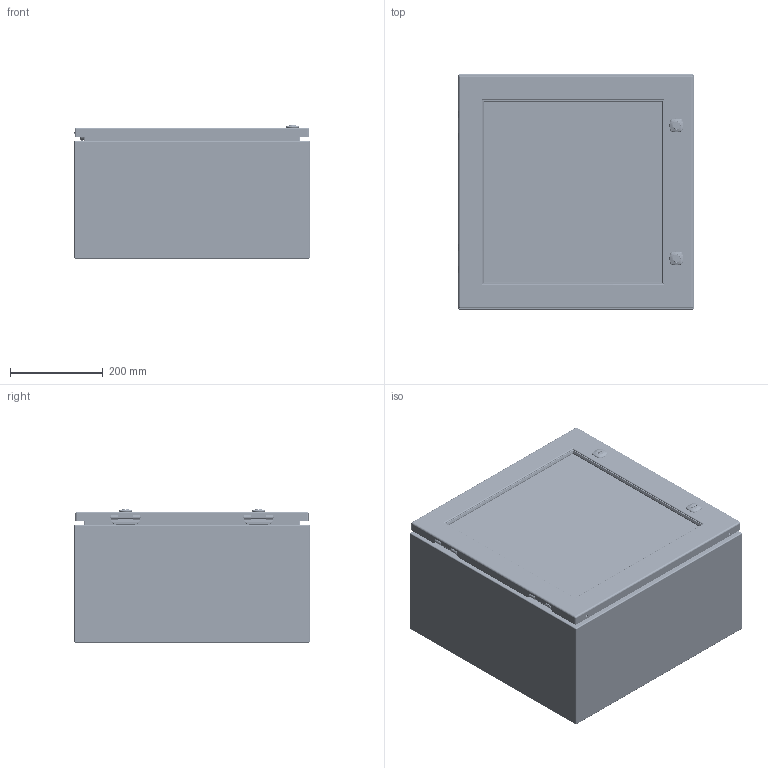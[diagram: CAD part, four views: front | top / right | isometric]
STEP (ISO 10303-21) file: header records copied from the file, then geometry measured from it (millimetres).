
FILE_DESCRIPTION(/* description */ ('5412ESW 20" x 20" x 10" Assembly'),/* implementation_level */ '2;1');
FILE_NAME(/* name */ '5412ESW202010.stp',/* time_stamp */ '2024-09-11T23:53:41-04:00',/* author */ ('BoxCad'),/* organization */ (''),/* preprocessor_version */ 'ST-DEVELOPER v20',/* originating_system */ 'Autodesk Inventor 2024',/* authorisation */ '');
FILE_SCHEMA (('AUTOMOTIVE_DESIGN { 1 0 10303 214 3 1 1 }'));
Products named in the file (58): 5412ESW202010; 5412ESW202010B; 5412ESW202010B-P; STK-Q-16005; STUD_M6 x 16mm; STK-S-00100; 5412ESW202010C; 5412ESW202010C-P; 5412ESW202010G; STK-K-09800-1; STK-K-09800-2; STK-Q-33014; STK-Q-90398; STK-Q-40095; STK-Q-63410; 5412ESW202010LX; 5412ESW202010LXG; 5412ESW202010_STK_G; STK-Q-16052; 5412ESW202010_STK-A-60703; STK-Q-60703-2; STK-Q-60703-1; STK-Q-60703-3; STK-Q-60703-4; STK-Q-60703-A; STK-Q-60703-B; STK-Q-60703-C; STK-Q-60701-1; STK-Q-60701-2; STK-Q-60701-3; STK-Q-60701-4; STK-Q-60701-17; STK-Q-60701-18; STK-Q-60701-19; STK-Q-60701-20; STK-Q-60701-A; STK-Q-60701-B; STK-Q-60701-C; STK-P-02400S; STK-K-12500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
Assembly tree (119 placements, depth 5):
  5412ESW202010
    5412ESW202010B
      5412ESW202010B-P
      STK-Q-16005  x4
      STK-P-02400S
      STUD_M6 x 16mm
      STK-S-00100
    5412ESW202010C
      5412ESW202010C-P
      5412ESW202010G
      STK-K-09800-1
        STK-Q-33014
        STK-Q-90398
        STK-Q-40095  x2
        STK-Q-63410  x2
      STK-K-09800-2
        STK-Q-33014
        STK-Q-90398
        STK-Q-40095  x2
        STK-Q-63410  x2
      5412ESW202010LX
      5412ESW202010LXG
      5412ESW202010_STK_G
      STK-Q-16052  x12
      5412ESW202010_STK-A-60703
        STK-Q-60703-2
          STK-Q-60703-A
          STK-Q-60703-B
          STK-Q-60703-C
        STK-Q-60703-1
          STK-Q-60703-A
          STK-Q-60703-B
          STK-Q-60703-C
        STK-Q-60703-3
          STK-Q-60703-A
          STK-Q-60703-B
          STK-Q-60703-C
        STK-Q-60703-4
          STK-Q-60703-A
          STK-Q-60703-B
          STK-Q-60703-C
      STK-Q-60701-1
        STK-Q-60701-A
        STK-Q-60701-B
        STK-Q-60701-C
      STK-Q-60701-2
        STK-Q-60701-A
        STK-Q-60701-B
        STK-Q-60701-C
      STK-Q-60701-3
        STK-Q-60701-A
        STK-Q-60701-B
        STK-Q-60701-C
      STK-Q-60701-4
        STK-Q-60701-A
        STK-Q-60701-B
        STK-Q-60701-C
      STK-Q-60701-17
        STK-Q-60701-A
        STK-Q-60701-B
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Bounding box: 508.07 x 508 x 287.27 mm (x, y, z)
Volume: 3438895.4 mm3; surface area: 3120364.2 mm2
Topology: 101 solids, 101 shells, 20407 faces, 54732 edges, 34863 vertices
Faces by surface type: bspline 7220, plane 6984, cylinder 4860, torus 751, sphere 372, cone 220
Full cylindrical faces by diameter (mm): 0 x1, 0.75 x17, 0.762 x17, 1 x8, 1.1 x8, 3.2 x4, 4.4 x8, 4.5 x12, 4.521 x8, 4.75 x2, 4.85 x16, 4.95 x4, 5 x12, 5.1 x66, 5.156 x4, 5.6 x2, 5.9 x25, 6.65 x4, 6.85 x16, 6.894 x8, 7 x24, 7.3 x2, 7.366 x16, 7.9 x4, 8 x28, 8.382 x2, 9 x12, 9.5 x12, 9.6 x2, 9.906 x4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
Entity records: 202554 total; most frequent: CARTESIAN_POINT 79107, ORIENTED_EDGE 27760, DIRECTION 20862, EDGE_CURVE 13880, VERTEX_POINT 8709, AXIS2_PLACEMENT_3D 7350, LINE 6162, VECTOR 6162
